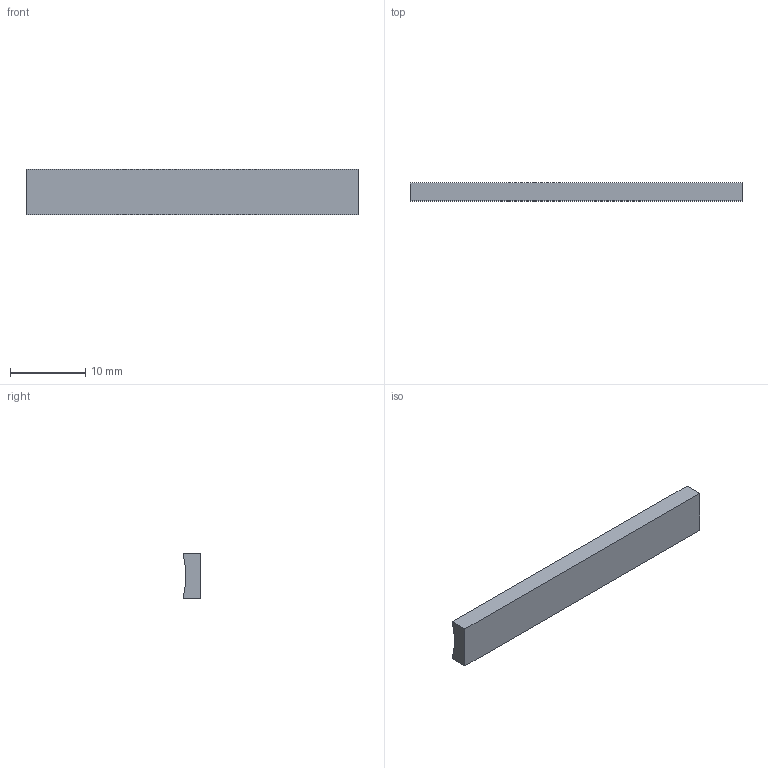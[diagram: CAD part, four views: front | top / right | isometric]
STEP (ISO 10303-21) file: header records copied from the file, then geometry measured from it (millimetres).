
FILE_DESCRIPTION((''),'2;1');
FILE_NAME('DICHTUNG_PTFE_2X6X44','2022-06-13T16:08:34',('H041970'),(''),'CREO PARAMETRIC BY PTC INC, 2021284','CREO PARAMETRIC BY PTC INC, 2021284','');
FILE_SCHEMA(('CONFIG_CONTROL_DESIGN'));
Length unit declared in the file: millimetre
Products named in the file (1): DICHTUNG_PTFE_2X6X44
Bounding box: 44 x 2.38 x 6 mm (x, y, z)
Volume: 561.3 mm3; surface area: 765.9 mm2
Topology: 1 solids, 1 shells, 6 faces, 13 edges, 10 vertices
Faces by surface type: plane 5, cylinder 1
Entity records: 210 total; most frequent: DIRECTION 29, CARTESIAN_POINT 28, ORIENTED_EDGE 24, EDGE_CURVE 12, VECTOR 11, LINE 11, AXIS2_PLACEMENT_3D 9, VERTEX_POINT 8
